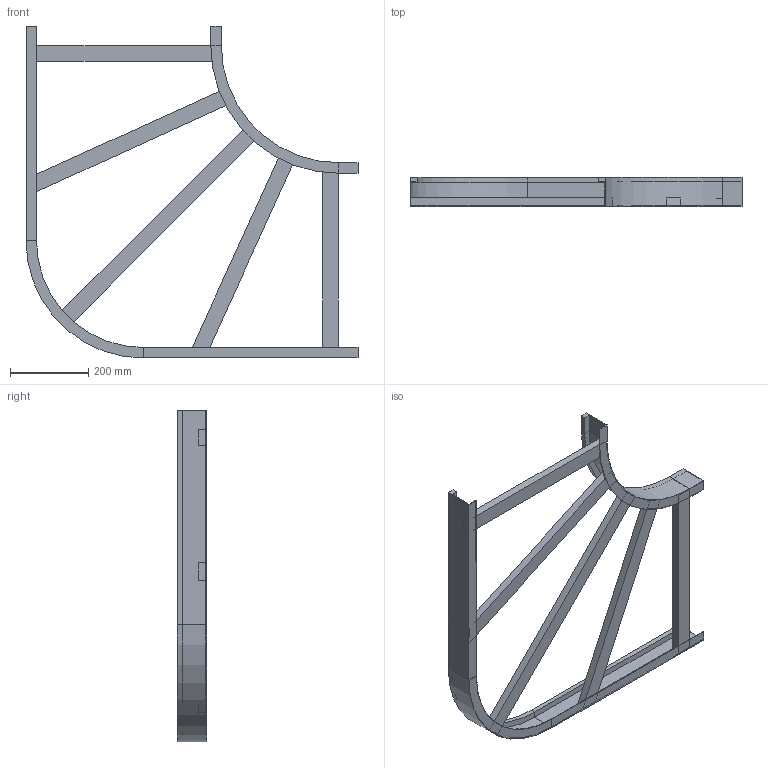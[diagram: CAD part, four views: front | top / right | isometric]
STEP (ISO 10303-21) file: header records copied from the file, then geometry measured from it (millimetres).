
FILE_DESCRIPTION (( 'STEP AP214' ), '1' );
FILE_NAME ('B2_10B3C500.step', '2025-02-21T15:27:02', ( '' ), ( '' ), 'SwSTEP 2.0', 'SolidWorks 2023', '' );
FILE_SCHEMA (( 'AUTOMOTIVE_DESIGN' ));
Length unit declared in the file: millimetre
Products named in the file (6): B2_LONGH.INTERNO 90°_H75_R300; B2_10B3C500; TRAVERSINO_500; B2_LONGH.ESTERNO 90°_H75_R300+500; TRAVERSINO_L701; TRAVERSINO_600_SCANTONATO
Assembly tree (7 placements, depth 2):
  B2_10B3C500
    B2_LONGH.INTERNO 90°_H75_R300
    B2_LONGH.ESTERNO 90°_H75_R300+500
    TRAVERSINO_500  x2
    TRAVERSINO_600_SCANTONATO  x2
    TRAVERSINO_L701
Bounding box: 850 x 75 x 850 mm (x, y, z)
Volume: 3143491.3 mm3; surface area: 859586.2 mm2
Topology: 7 solids, 7 shells, 82 faces, 172 edges, 104 vertices
Faces by surface type: plane 74, cylinder 8
Entity records: 2015 total; most frequent: DIRECTION 324, CARTESIAN_POINT 316, ORIENTED_EDGE 296, EDGE_CURVE 148, LINE 132, VECTOR 132, AXIS2_PLACEMENT_3D 96, VERTEX_POINT 88
